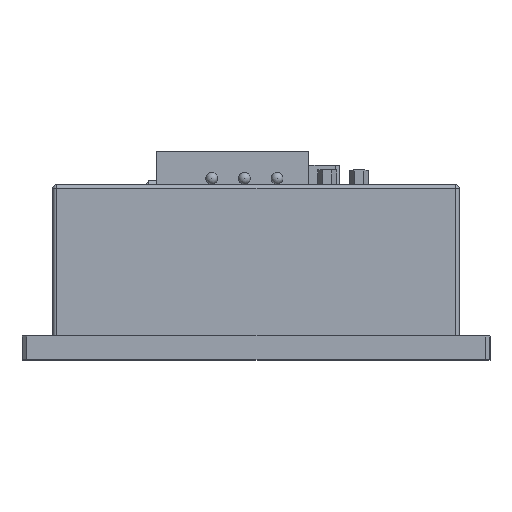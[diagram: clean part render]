
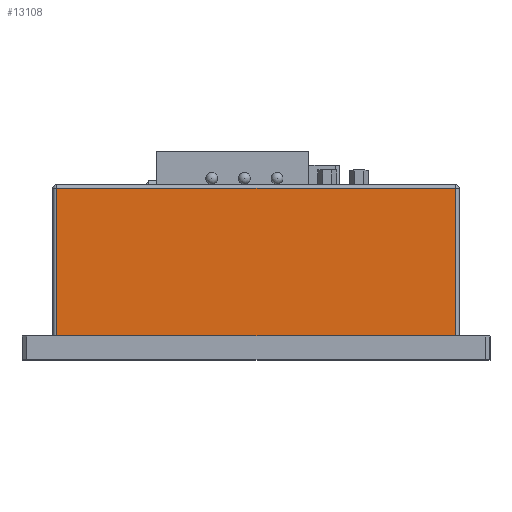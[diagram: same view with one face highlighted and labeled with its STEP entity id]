
A CAD part, top view. The second image highlights one B-rep face of the part: STEP entity #13108.
In plain terms, the highlighted planar face has unit normal (0, 0, 1).
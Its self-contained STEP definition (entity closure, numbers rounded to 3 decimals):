
#194 = VERTEX_POINT ( 'NONE', #5442 ) ;
#816 = CARTESIAN_POINT ( 'NONE',  ( -123.029, -16.078, 32.419 ) ) ;
#1048 = VECTOR ( 'NONE', #22025, 1000. ) ;
#1226 = CARTESIAN_POINT ( 'NONE',  ( -38.629, 15.922, 32.419 ) ) ;
#2303 = VERTEX_POINT ( 'NONE', #14202 ) ;
#4191 = VERTEX_POINT ( 'NONE', #16942 ) ;
#4284 = ORIENTED_EDGE ( 'NONE', *, *, #21411, .F. ) ;
#4469 = LINE ( 'NONE', #1226, #5383 ) ;
#5383 = VECTOR ( 'NONE', #23049, 1000. ) ;
#5442 = CARTESIAN_POINT ( 'NONE',  ( -38.629, 15.122, 32.419 ) ) ;
#5828 = VERTEX_POINT ( 'NONE', #816 ) ;
#7789 = DIRECTION ( 'NONE',  ( 1., 0., 0. ) ) ;
#8213 = AXIS2_PLACEMENT_3D ( 'NONE', #24967, #14877, #22895 ) ;
#8884 = LINE ( 'NONE', #21931, #1048 ) ;
#9985 = VECTOR ( 'NONE', #18088, 1000. ) ;
#11023 = EDGE_LOOP ( 'NONE', ( #25755, #19311, #4284, #22626 ) ) ;
#12418 = FACE_OUTER_BOUND ( 'NONE', #11023, .T. ) ;
#12866 = PLANE ( 'NONE',  #8213 ) ;
#13108 = ADVANCED_FACE ( 'NONE', ( #12418 ), #12866, .F. ) ;
#14202 = CARTESIAN_POINT ( 'NONE',  ( -123.029, 15.122, 32.419 ) ) ;
#14594 = EDGE_CURVE ( 'NONE', #4191, #5828, #8884, .T. ) ;
#14877 = DIRECTION ( 'NONE',  ( 0., 0., -1. ) ) ;
#15164 = VECTOR ( 'NONE', #7789, 1000. ) ;
#15550 = CARTESIAN_POINT ( 'NONE',  ( -80.829, 15.122, 32.419 ) ) ;
#15896 = LINE ( 'NONE', #24024, #9985 ) ;
#16942 = CARTESIAN_POINT ( 'NONE',  ( -38.629, -16.078, 32.419 ) ) ;
#18088 = DIRECTION ( 'NONE',  ( 0., 1., 0. ) ) ;
#19311 = ORIENTED_EDGE ( 'NONE', *, *, #22625, .F. ) ;
#19538 = LINE ( 'NONE', #15550, #15164 ) ;
#19980 = EDGE_CURVE ( 'NONE', #194, #4191, #4469, .T. ) ;
#21411 = EDGE_CURVE ( 'NONE', #5828, #2303, #15896, .T. ) ;
#21931 = CARTESIAN_POINT ( 'NONE',  ( -80.829, -16.078, 32.419 ) ) ;
#22025 = DIRECTION ( 'NONE',  ( -1., 0., 0. ) ) ;
#22625 = EDGE_CURVE ( 'NONE', #2303, #194, #19538, .T. ) ;
#22626 = ORIENTED_EDGE ( 'NONE', *, *, #14594, .F. ) ;
#22895 = DIRECTION ( 'NONE',  ( -1., 0., 0. ) ) ;
#23049 = DIRECTION ( 'NONE',  ( 0., -1., 0. ) ) ;
#24024 = CARTESIAN_POINT ( 'NONE',  ( -123.029, 15.922, 32.419 ) ) ;
#24967 = CARTESIAN_POINT ( 'NONE',  ( -123.829, 15.922, 32.419 ) ) ;
#25755 = ORIENTED_EDGE ( 'NONE', *, *, #19980, .F. ) ;
